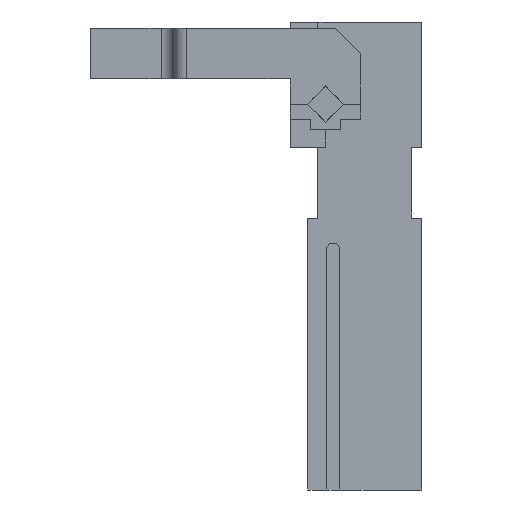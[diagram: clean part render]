
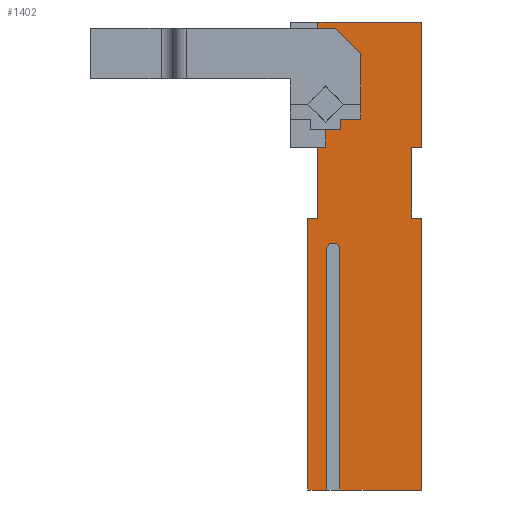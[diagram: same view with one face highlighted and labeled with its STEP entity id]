
A CAD part, front view. The second image highlights one B-rep face of the part: STEP entity #1402.
In plain terms, the highlighted planar face has unit normal (0, -1, 0).
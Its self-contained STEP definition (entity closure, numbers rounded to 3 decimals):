
#138=CARTESIAN_POINT('',(38.0,-17.5,-152.5));
#139=VERTEX_POINT('',#138);
#140=CARTESIAN_POINT('',(38.0,-17.5,-45.));
#141=VERTEX_POINT('',#140);
#142=CARTESIAN_POINT('',(38.0,-17.5,-152.5));
#143=DIRECTION('',(0.0,0.0,1.0));
#144=VECTOR('',#143,107.5);
#145=LINE('',#142,#144);
#146=EDGE_CURVE('',#139,#141,#145,.T.);
#192=CARTESIAN_POINT('',(0.0,-17.5,8.));
#193=VERTEX_POINT('',#192);
#194=CARTESIAN_POINT('',(0.0,-17.5,17.0));
#195=VERTEX_POINT('',#194);
#196=CARTESIAN_POINT('',(0.0,-17.5,8.));
#197=DIRECTION('',(0.0,0.0,1.0));
#198=VECTOR('',#197,9.);
#199=LINE('',#196,#198);
#200=EDGE_CURVE('',#193,#195,#199,.T.);
#232=CARTESIAN_POINT('',(0.,-17.5,-8.0));
#233=VERTEX_POINT('',#232);
#234=CARTESIAN_POINT('',(0.,-17.5,0.));
#235=DIRECTION('',(0.0,-1.0,0.0));
#236=DIRECTION('',(1.0,0.0,0.0));
#237=AXIS2_PLACEMENT_3D('',#234,#235,#236);
#238=CIRCLE('',#237,8.0);
#239=EDGE_CURVE('',#233,#193,#238,.T.);
#273=CARTESIAN_POINT('',(0.0,-17.5,-17.0));
#274=VERTEX_POINT('',#273);
#281=CARTESIAN_POINT('',(0.0,-17.5,-17.0));
#282=DIRECTION('',(0.0,0.0,1.0));
#283=VECTOR('',#282,9.);
#284=LINE('',#281,#283);
#285=EDGE_CURVE('',#274,#233,#284,.T.);
#296=CARTESIAN_POINT('',(-3.,-17.5,-45.0));
#297=VERTEX_POINT('',#296);
#314=CARTESIAN_POINT('',(-7.,-17.5,-45.0));
#315=VERTEX_POINT('',#314);
#322=CARTESIAN_POINT('',(-7.,-17.5,-45.0));
#323=DIRECTION('',(1.0,0.0,0.0));
#324=VECTOR('',#323,4.0);
#325=LINE('',#322,#324);
#326=EDGE_CURVE('',#315,#297,#325,.T.);
#336=CARTESIAN_POINT('',(34.0,-17.5,-17.));
#337=VERTEX_POINT('',#336);
#346=CARTESIAN_POINT('',(34.0,-17.5,-45.));
#347=VERTEX_POINT('',#346);
#348=CARTESIAN_POINT('',(34.0,-17.5,-17.));
#349=DIRECTION('',(0.0,0.0,-1.0));
#350=VECTOR('',#349,28.0);
#351=LINE('',#348,#350);
#352=EDGE_CURVE('',#337,#347,#351,.T.);
#420=CARTESIAN_POINT('',(38.0,-17.5,-17.));
#421=VERTEX_POINT('',#420);
#430=CARTESIAN_POINT('',(38.0,-17.5,-17.0));
#431=DIRECTION('',(-1.0,0.0,0.0));
#432=VECTOR('',#431,4.0);
#433=LINE('',#430,#432);
#434=EDGE_CURVE('',#421,#337,#433,.T.);
#724=CARTESIAN_POINT('',(-3.,-17.5,-17.0));
#725=VERTEX_POINT('',#724);
#726=CARTESIAN_POINT('',(-3.,-17.5,-45.0));
#727=DIRECTION('',(0.0,0.0,1.0));
#728=VECTOR('',#727,28.);
#729=LINE('',#726,#728);
#730=EDGE_CURVE('',#297,#725,#729,.T.);
#766=CARTESIAN_POINT('',(-3.,-17.5,-17.0));
#767=DIRECTION('',(1.0,0.0,0.0));
#768=VECTOR('',#767,3.);
#769=LINE('',#766,#768);
#770=EDGE_CURVE('',#725,#274,#769,.T.);
#780=CARTESIAN_POINT('',(-3.,-17.5,17.0));
#781=VERTEX_POINT('',#780);
#797=CARTESIAN_POINT('',(0.0,-17.5,17.0));
#798=DIRECTION('',(-1.0,0.0,0.0));
#799=VECTOR('',#798,3.);
#800=LINE('',#797,#799);
#801=EDGE_CURVE('',#195,#781,#800,.T.);
#811=CARTESIAN_POINT('',(-3.,-17.5,32.5));
#812=VERTEX_POINT('',#811);
#813=CARTESIAN_POINT('',(-3.,-17.5,17.0));
#814=DIRECTION('',(0.0,0.0,1.0));
#815=VECTOR('',#814,15.5);
#816=LINE('',#813,#815);
#817=EDGE_CURVE('',#781,#812,#816,.T.);
#842=CARTESIAN_POINT('',(38.0,-17.5,32.5));
#843=VERTEX_POINT('',#842);
#844=CARTESIAN_POINT('',(-3.,-17.5,32.5));
#845=DIRECTION('',(1.0,0.0,0.0));
#846=VECTOR('',#845,41.);
#847=LINE('',#844,#846);
#848=EDGE_CURVE('',#812,#843,#847,.T.);
#880=CARTESIAN_POINT('',(38.0,-17.5,-17.));
#881=DIRECTION('',(0.0,0.0,1.0));
#882=VECTOR('',#881,49.5);
#883=LINE('',#880,#882);
#884=EDGE_CURVE('',#421,#843,#883,.T.);
#903=CARTESIAN_POINT('',(-7.,-17.5,-152.5));
#904=VERTEX_POINT('',#903);
#911=CARTESIAN_POINT('',(-7.,-17.5,-152.5));
#912=DIRECTION('',(0.0,0.0,1.0));
#913=VECTOR('',#912,107.5);
#914=LINE('',#911,#913);
#915=EDGE_CURVE('',#904,#315,#914,.T.);
#954=CARTESIAN_POINT('',(34.0,-17.5,-45.0));
#955=DIRECTION('',(1.0,0.0,0.0));
#956=VECTOR('',#955,4.0);
#957=LINE('',#954,#956);
#958=EDGE_CURVE('',#347,#141,#957,.T.);
#1094=CARTESIAN_POINT('',(5.6,-17.5,-152.5));
#1095=VERTEX_POINT('',#1094);
#1096=CARTESIAN_POINT('',(5.6,-17.5,-152.5));
#1097=DIRECTION('',(1.0,0.0,0.0));
#1098=VECTOR('',#1097,32.4);
#1099=LINE('',#1096,#1098);
#1100=EDGE_CURVE('',#1095,#139,#1099,.T.);
#1150=CARTESIAN_POINT('',(0.4,-17.5,-152.5));
#1151=VERTEX_POINT('',#1150);
#1158=CARTESIAN_POINT('',(-7.,-17.5,-152.5));
#1159=DIRECTION('',(1.0,0.0,0.0));
#1160=VECTOR('',#1159,7.4);
#1161=LINE('',#1158,#1160);
#1162=EDGE_CURVE('',#904,#1151,#1161,.T.);
#1302=CARTESIAN_POINT('',(0.4,-17.5,-57.5));
#1303=VERTEX_POINT('',#1302);
#1304=CARTESIAN_POINT('',(0.4,-17.5,-152.5));
#1305=DIRECTION('',(0.0,0.0,1.0));
#1306=VECTOR('',#1305,95.0);
#1307=LINE('',#1304,#1306);
#1308=EDGE_CURVE('',#1151,#1303,#1307,.T.);
#1333=CARTESIAN_POINT('',(5.6,-17.5,-57.5));
#1334=VERTEX_POINT('',#1333);
#1335=CARTESIAN_POINT('',(3.,-17.5,-57.5));
#1336=DIRECTION('',(0.0,1.0,0.0));
#1337=DIRECTION('',(-1.0,0.0,0.0));
#1338=AXIS2_PLACEMENT_3D('',#1335,#1336,#1337);
#1339=CIRCLE('',#1338,2.6);
#1340=EDGE_CURVE('',#1303,#1334,#1339,.T.);
#1370=CARTESIAN_POINT('',(38.0,-17.5,0.0));
#1371=DIRECTION('',(0.0,1.0,0.0));
#1372=DIRECTION('',(0.0,0.0,1.0));
#1373=AXIS2_PLACEMENT_3D('',#1370,#1371,#1372);
#1374=PLANE('',#1373);
#1375=ORIENTED_EDGE('',*,*,#1340,.T.);
#1376=CARTESIAN_POINT('',(5.6,-17.5,-152.5));
#1377=DIRECTION('',(0.0,0.0,1.0));
#1378=VECTOR('',#1377,95.);
#1379=LINE('',#1376,#1378);
#1380=EDGE_CURVE('',#1095,#1334,#1379,.T.);
#1381=ORIENTED_EDGE('',*,*,#1380,.F.);
#1382=ORIENTED_EDGE('',*,*,#1100,.T.);
#1383=ORIENTED_EDGE('',*,*,#146,.T.);
#1384=ORIENTED_EDGE('',*,*,#958,.F.);
#1385=ORIENTED_EDGE('',*,*,#352,.F.);
#1386=ORIENTED_EDGE('',*,*,#434,.F.);
#1387=ORIENTED_EDGE('',*,*,#884,.T.);
#1388=ORIENTED_EDGE('',*,*,#848,.F.);
#1389=ORIENTED_EDGE('',*,*,#817,.F.);
#1390=ORIENTED_EDGE('',*,*,#801,.F.);
#1391=ORIENTED_EDGE('',*,*,#200,.F.);
#1392=ORIENTED_EDGE('',*,*,#239,.F.);
#1393=ORIENTED_EDGE('',*,*,#285,.F.);
#1394=ORIENTED_EDGE('',*,*,#770,.F.);
#1395=ORIENTED_EDGE('',*,*,#730,.F.);
#1396=ORIENTED_EDGE('',*,*,#326,.F.);
#1397=ORIENTED_EDGE('',*,*,#915,.F.);
#1398=ORIENTED_EDGE('',*,*,#1162,.T.);
#1399=ORIENTED_EDGE('',*,*,#1308,.T.);
#1400=EDGE_LOOP('',(#1375,#1381,#1382,#1383,#1384,#1385,#1386,#1387,#1388,#1389,#1390,#1391,#1392,#1393,#1394,#1395,#1396,#1397,#1398,#1399));
#1401=FACE_OUTER_BOUND('',#1400,.T.);
#1402=ADVANCED_FACE('',(#1401),#1374,.F.);
